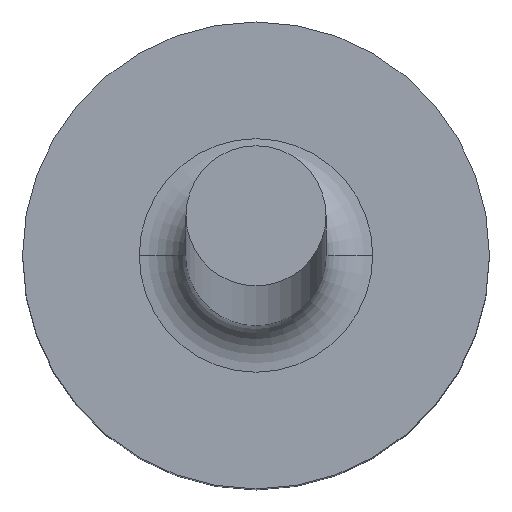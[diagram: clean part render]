
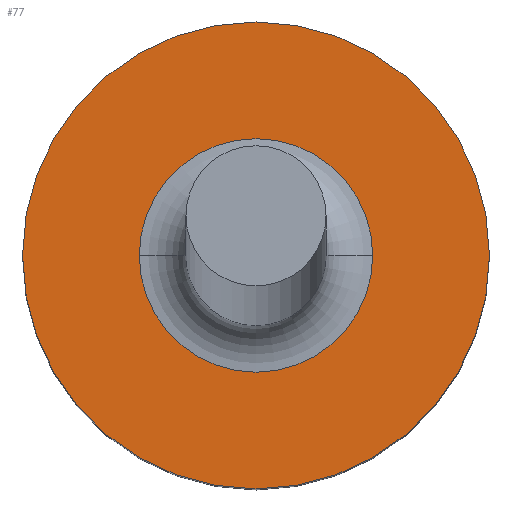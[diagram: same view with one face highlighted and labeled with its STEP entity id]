
A CAD part, top view. The second image highlights one B-rep face of the part: STEP entity #77.
In plain terms, the highlighted planar face has unit normal (0, 0, 1).
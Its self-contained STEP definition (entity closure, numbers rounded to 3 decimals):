
#9 = AXIS2_PLACEMENT_3D ( 'NONE', #270, #21, #160 ) ;
#10 = VERTEX_POINT ( 'NONE', #125 ) ;
#17 = EDGE_CURVE ( 'NONE', #222, #193, #109, .T. ) ;
#20 = ORIENTED_EDGE ( 'NONE', *, *, #245, .T. ) ;
#21 = DIRECTION ( 'NONE',  ( 0., 0., -1. ) ) ;
#41 = AXIS2_PLACEMENT_3D ( 'NONE', #105, #231, #42 ) ;
#42 = DIRECTION ( 'NONE',  ( -1., 0., 0. ) ) ;
#54 = FACE_BOUND ( 'NONE', #264, .T. ) ;
#64 = DIRECTION ( 'NONE',  ( -1., 0., 0. ) ) ;
#75 = ORIENTED_EDGE ( 'NONE', *, *, #17, .F. ) ;
#77 = ADVANCED_FACE ( 'NONE', ( #54, #184 ), #91, .F. ) ;
#80 = VERTEX_POINT ( 'NONE', #214 ) ;
#87 = CARTESIAN_POINT ( 'NONE',  ( 1.5, 0., 4. ) ) ;
#91 = PLANE ( 'NONE',  #41 ) ;
#98 = EDGE_CURVE ( 'NONE', #10, #80, #167, .T. ) ;
#105 = CARTESIAN_POINT ( 'NONE',  ( 1.5, 0., 4. ) ) ;
#106 = DIRECTION ( 'NONE',  ( 0., 0., -1. ) ) ;
#107 = AXIS2_PLACEMENT_3D ( 'NONE', #210, #106, #64 ) ;
#109 = CIRCLE ( 'NONE', #9, 1.5 ) ;
#125 = CARTESIAN_POINT ( 'NONE',  ( -0.75, 0., 4. ) ) ;
#130 = CARTESIAN_POINT ( 'NONE',  ( -1.5, 0., 4. ) ) ;
#160 = DIRECTION ( 'NONE',  ( -1., 0., 0. ) ) ;
#161 = ORIENTED_EDGE ( 'NONE', *, *, #98, .T. ) ;
#166 = CARTESIAN_POINT ( 'NONE',  ( 0., 0., 4. ) ) ;
#167 = CIRCLE ( 'NONE', #107, 0.75 ) ;
#175 = AXIS2_PLACEMENT_3D ( 'NONE', #257, #243, #197 ) ;
#180 = EDGE_CURVE ( 'NONE', #193, #222, #205, .T. ) ;
#184 = FACE_OUTER_BOUND ( 'NONE', #247, .T. ) ;
#186 = ORIENTED_EDGE ( 'NONE', *, *, #180, .F. ) ;
#189 = DIRECTION ( 'NONE',  ( 0., 0., -1. ) ) ;
#193 = VERTEX_POINT ( 'NONE', #87 ) ;
#197 = DIRECTION ( 'NONE',  ( -1., 0., 0. ) ) ;
#205 = CIRCLE ( 'NONE', #254, 1.5 ) ;
#209 = CIRCLE ( 'NONE', #175, 0.75 ) ;
#210 = CARTESIAN_POINT ( 'NONE',  ( 0., 0., 4. ) ) ;
#212 = DIRECTION ( 'NONE',  ( -1., 0., 0. ) ) ;
#214 = CARTESIAN_POINT ( 'NONE',  ( 0.75, 0., 4. ) ) ;
#222 = VERTEX_POINT ( 'NONE', #130 ) ;
#231 = DIRECTION ( 'NONE',  ( 0., 0., -1. ) ) ;
#243 = DIRECTION ( 'NONE',  ( 0., 0., -1. ) ) ;
#245 = EDGE_CURVE ( 'NONE', #80, #10, #209, .T. ) ;
#247 = EDGE_LOOP ( 'NONE', ( #75, #186 ) ) ;
#254 = AXIS2_PLACEMENT_3D ( 'NONE', #166, #189, #212 ) ;
#257 = CARTESIAN_POINT ( 'NONE',  ( 0., 0., 4. ) ) ;
#264 = EDGE_LOOP ( 'NONE', ( #161, #20 ) ) ;
#270 = CARTESIAN_POINT ( 'NONE',  ( 0., 0., 4. ) ) ;
